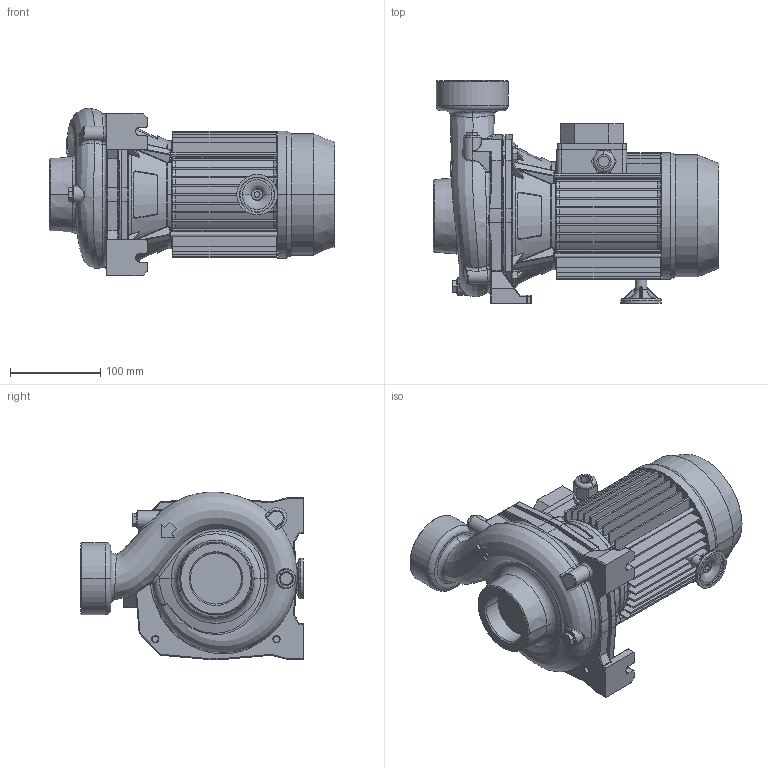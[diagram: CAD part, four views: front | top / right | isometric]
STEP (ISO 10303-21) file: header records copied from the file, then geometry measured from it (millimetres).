
FILE_DESCRIPTION((''),'2;1');
FILE_NAME('CMC_075T_IE3_ASM','2021-08-20T',('rosa'),('"Ebara Pumps Europe +39.444.706811"'),'PRO/ENGINEER BY PARAMETRIC TECHNOLOGY CORPORATION, 2017170','PRO/ENGINEER BY PARAMETRIC TECHNOLOGY CORPORATION, 2017170','');
FILE_SCHEMA(('AUTOMOTIVE_DESIGN { 1 0 10303 214 1 1 1 1 }'));
Products named in the file (6): MEC_71; 80534; 38001; 20506; 72001; CMC_075T_IE3_ASM
Assembly tree (5 placements, depth 2):
  CMC_075T_IE3_ASM
    MEC_71
    80534
    38001
    20506
    72001
Bounding box: 316.3 x 247 x 185.75 mm (x, y, z)
Volume: 3943288.9 mm3; surface area: 549820.5 mm2
Topology: 5 solids, 9 shells, 1215 faces, 2943 edges, 1780 vertices
Faces by surface type: plane 472, cylinder 336, bspline 190, cone 113, torus 73, sphere 31
Entity records: 60858 total; most frequent: CARTESIAN_POINT 23658, ORIENTED_EDGE 5862, DIRECTION 5340, PRESENTATION_STYLE_ASSIGNMENT 2948, STYLED_ITEM 2948, CURVE_STYLE 2939, EDGE_CURVE 2939, AXIS2_PLACEMENT_3D 2043
